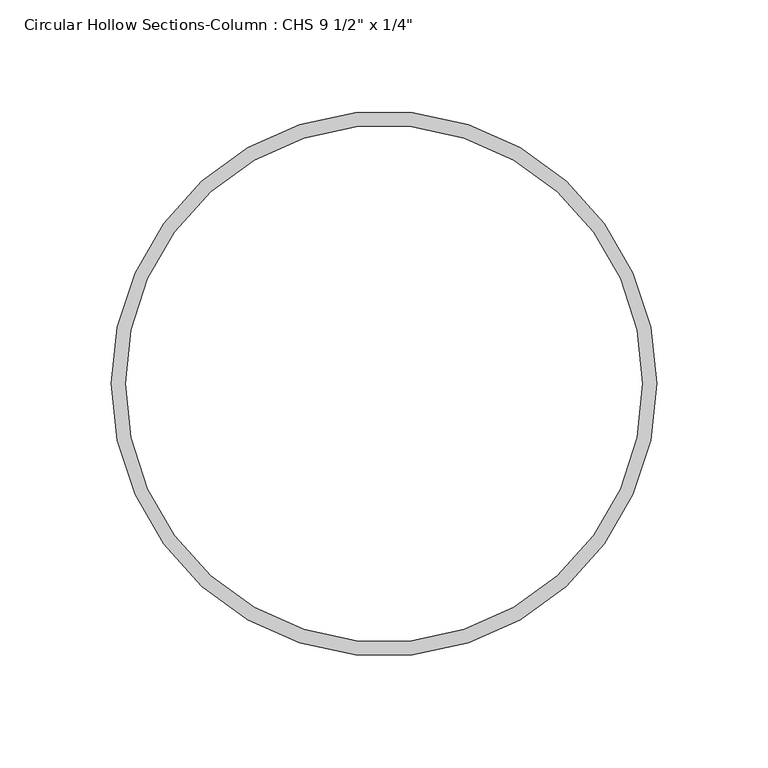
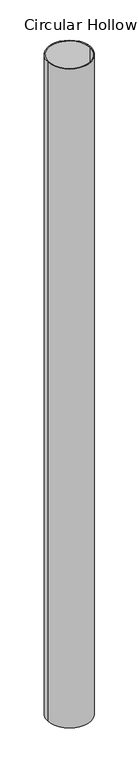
"""IFC4 building model written with IfcOpenShell, lengths in millimetres: column geometry."""

from ifc_helpers import new_model, si_unit, point, frame, origin, origin_2d, place, context, project, spatial, circle_curve, trimmed, segment, composite_curve, outline, extrude, source, transform, mapped, element, save


def column_fd5da61b(model_context):
    return source(origin(), model_context, "Body", "SweptSolid", [
        extrude(outline(composite_curve([segment(trimmed(circle_curve(origin_2d(), 122.25), [point((-122.25, 0.0))], [point((122.25, 0.0))], False, "CARTESIAN"), True, "CONTINUOUS"), segment(trimmed(circle_curve(origin_2d(), 122.25), [point((122.25, 0.0))], [point((-122.25, 0.0))], False, "CARTESIAN"), True, "CONTINUOUS")], self_intersect=False), holes=[composite_curve([segment(trimmed(circle_curve(origin_2d(), 115.95), [point((-115.95, 0.0))], [point((115.95, 0.0))], True, "CARTESIAN"), True, "CONTINUOUS"), segment(trimmed(circle_curve(origin_2d(), 115.95), [point((115.95, 0.0))], [point((-115.95, 0.0))], True, "CARTESIAN"), True, "CONTINUOUS")], self_intersect=False)]), frame((0.0, 0.0, 4595.0), z_axis=(0.0, 0.0, 1.0), x_axis=(1.0, 0.0, 0.0)), (0.0, 0.0, 1.0), 3900.0),
    ])


if __name__ == "__main__":
    model = new_model("IFC4")
    model_context = context("Model", 3, world=origin())
    ifc_project = project(units=[si_unit("LENGTHUNIT", "METRE", prefix="MILLI")], contexts=[model_context])
    site = spatial("IfcSite", under=ifc_project)
    building = spatial("IfcBuilding", under=site)
    placement = place(None, origin())
    column_shape = column_fd5da61b(model_context)
    element("IfcColumn", 1, ObjectType="Circular Hollow Sections-Column : CHS 9 1/2\" x 1/4\"", at=placement, inside=building, context=model_context, shape_type="MappedRepresentation", body=[
        mapped(column_shape, transform((0.0, 0.0, 0.0), x_axis=(1.0, 0.0, 0.0), y_axis=(0.0, 1.0, 0.0), z_axis=(0.0, 0.0, 1.0))),
    ])
    save(model, "model.ifc")
